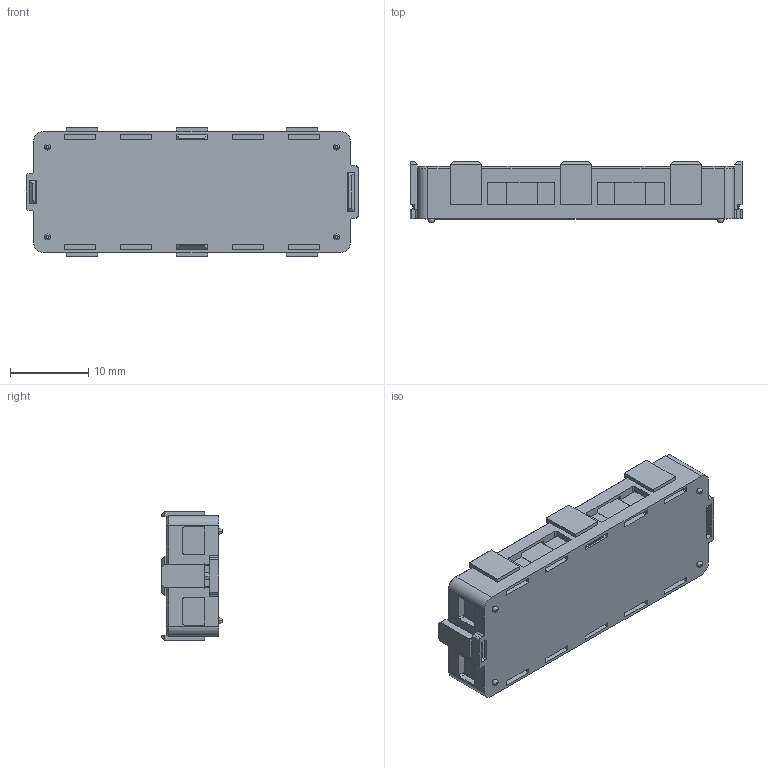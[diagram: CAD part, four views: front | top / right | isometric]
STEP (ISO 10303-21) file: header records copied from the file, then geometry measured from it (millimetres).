
FILE_DESCRIPTION((''),'2;1');
FILE_NAME('84553','2009-07-13T',('spaulpan'),('FCI - ELX Division'),'PRO/ENGINEER BY PARAMETRIC TECHNOLOGY CORPORATION, 2008010','PRO/ENGINEER BY PARAMETRIC TECHNOLOGY CORPORATION, 2008010','');
FILE_SCHEMA(('CONFIG_CONTROL_DESIGN'));
Length unit declared in the file: millimetre
Products named in the file (1): 84553
Bounding box: 42.3 x 7.85 x 16.38 mm (x, y, z)
Volume: 3448.5 mm3; surface area: 2921.8 mm2
Topology: 1 solids, 1 shells, 714 faces, 1916 edges, 1188 vertices
Faces by surface type: plane 514, cylinder 152, bspline 16, cone 12, torus 12, sphere 8
Entity records: 23103 total; most frequent: CARTESIAN_POINT 5183, ORIENTED_EDGE 3832, DIRECTION 3548, EDGE_CURVE 1916, VECTOR 1560, LINE 1560, VERTEX_POINT 1188, AXIS2_PLACEMENT_3D 994
